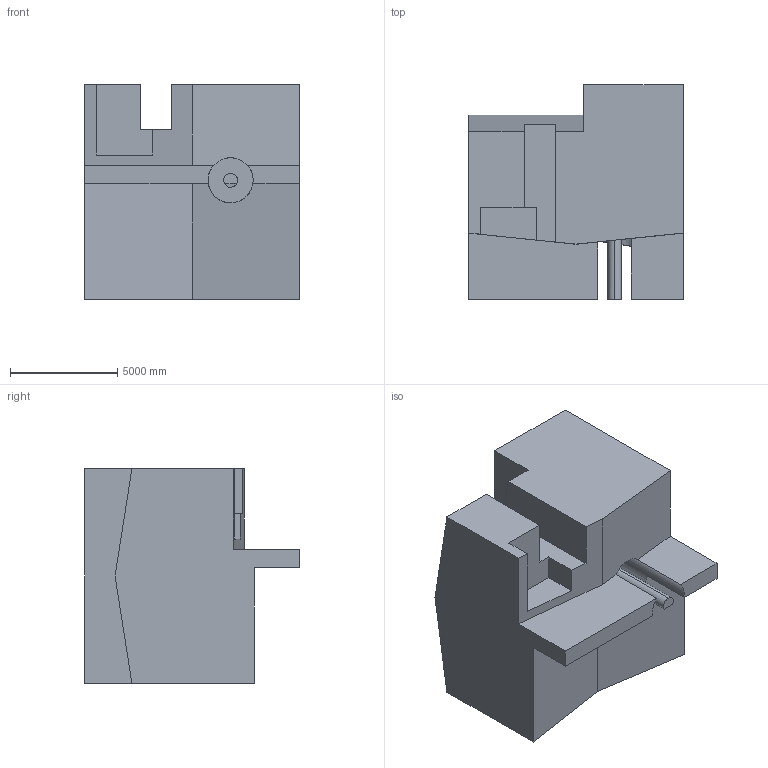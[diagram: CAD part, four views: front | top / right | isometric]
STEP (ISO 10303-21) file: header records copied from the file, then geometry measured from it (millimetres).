
FILE_DESCRIPTION (( 'STEP AP203' ), '1' );
FILE_NAME ('1543.STEP', '2022-08-18T15:12:10', ( 'user' ), ( '' ), 'SwSTEP 2.0', 'SolidWorks 2021', '' );
FILE_SCHEMA (( 'CONFIG_CONTROL_DESIGN' ));
Length unit declared in the file: centimetre
Products named in the file (1): 1543
Bounding box: 10000 x 10000 x 10000 mm (x, y, z)
Volume: 623816315904.3 mm3; surface area: 577377556.1 mm2
Topology: 1 solids, 1 shells, 34 faces, 93 edges, 62 vertices
Faces by surface type: plane 30, cylinder 4
Entity records: 1142 total; most frequent: CARTESIAN_POINT 208, ORIENTED_EDGE 186, DIRECTION 165, EDGE_CURVE 93, LINE 79, VECTOR 79, VERTEX_POINT 62, AXIS2_PLACEMENT_3D 43
